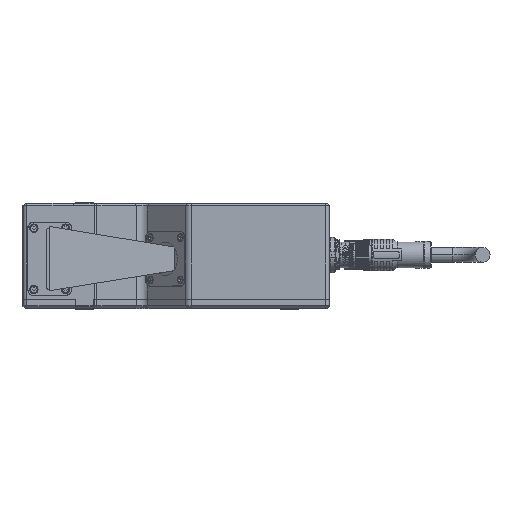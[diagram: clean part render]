
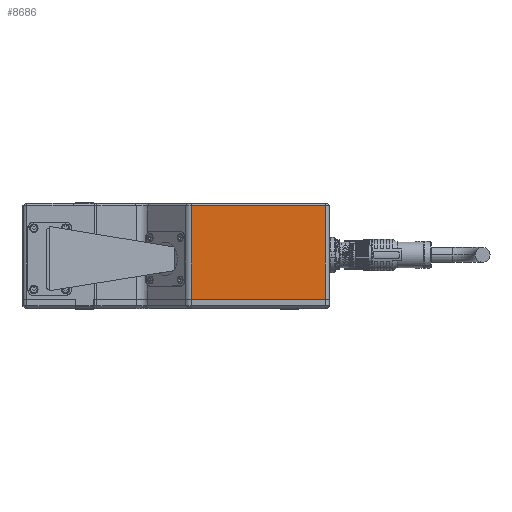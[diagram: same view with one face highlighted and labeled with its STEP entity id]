
A CAD part, top view. The second image highlights one B-rep face of the part: STEP entity #8686.
In plain terms, the highlighted planar face has unit normal (0, 0, -1).
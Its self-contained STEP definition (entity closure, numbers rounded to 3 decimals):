
#3757=DIRECTION('',(-1.,0.,0.));
#3758=VECTOR('',#3757,67.843);
#3759=CARTESIAN_POINT('',(153.5,4.85,-50.));
#3760=LINE('',#3759,#3758);
#4468=DIRECTION('',(0.,-1.,0.));
#4469=VECTOR('',#4468,47.2);
#4470=CARTESIAN_POINT('',(153.5,52.05,-50.));
#4471=LINE('',#4470,#4469);
#4476=DIRECTION('',(-1.,0.,0.));
#4477=VECTOR('',#4476,67.843);
#4478=CARTESIAN_POINT('',(153.5,52.05,-50.));
#4479=LINE('',#4478,#4477);
#4497=DIRECTION('',(0.,1.,0.));
#4498=VECTOR('',#4497,47.2);
#4499=CARTESIAN_POINT('',(85.657,4.85,-50.));
#4500=LINE('',#4499,#4498);
#7597=CARTESIAN_POINT('',(153.5,4.85,-50.));
#7598=VERTEX_POINT('',#7597);
#7599=CARTESIAN_POINT('',(85.657,4.85,-50.));
#7600=VERTEX_POINT('',#7599);
#7619=CARTESIAN_POINT('',(153.5,52.05,-50.));
#7620=VERTEX_POINT('',#7619);
#7621=CARTESIAN_POINT('',(85.657,52.05,-50.));
#7622=VERTEX_POINT('',#7621);
#8673=CARTESIAN_POINT('',(119.578,28.45,-50.));
#8674=DIRECTION('',(0.,0.,1.));
#8675=DIRECTION('',(-1.,0.,0.));
#8676=AXIS2_PLACEMENT_3D('',#8673,#8674,#8675);
#8677=PLANE('',#8676);
#8679=ORIENTED_EDGE('',*,*,#8678,.T.);
#8681=ORIENTED_EDGE('',*,*,#8680,.F.);
#8682=ORIENTED_EDGE('',*,*,#8459,.F.);
#8683=ORIENTED_EDGE('',*,*,#8666,.F.);
#8684=EDGE_LOOP('',(#8679,#8681,#8682,#8683));
#8685=FACE_OUTER_BOUND('',#8684,.F.);
#8459=EDGE_CURVE('',#7598,#7600,#3760,.T.);
#8666=EDGE_CURVE('',#7620,#7598,#4471,.T.);
#8678=EDGE_CURVE('',#7620,#7622,#4479,.T.);
#8680=EDGE_CURVE('',#7600,#7622,#4500,.T.);
#8686=ADVANCED_FACE('',(#8685),#8677,.F.);
